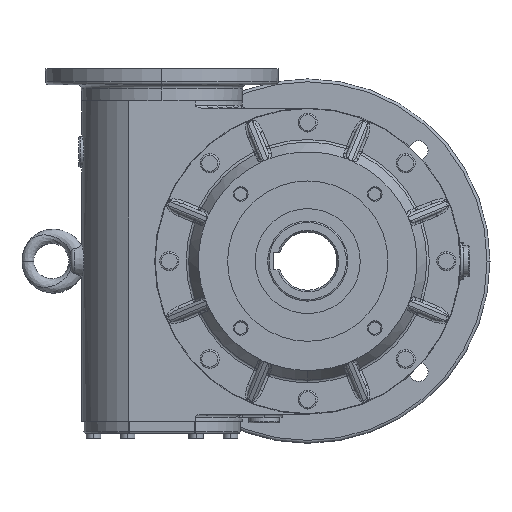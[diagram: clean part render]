
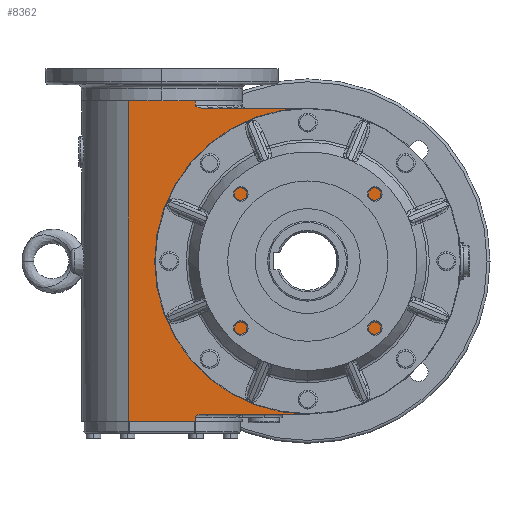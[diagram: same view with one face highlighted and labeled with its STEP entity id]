
A CAD part, left-side view. The second image highlights one B-rep face of the part: STEP entity #8362.
In plain terms, the highlighted planar face has unit normal (-1, 0, 0).
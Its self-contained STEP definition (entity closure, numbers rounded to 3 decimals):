
#7908 = DIRECTION ( 'NONE',  ( 0., -1., 0. ) ) ;
#7909 = VECTOR ( 'NONE', #7908, 1000. ) ;
#7910 = CARTESIAN_POINT ( 'NONE',  ( -50., 122.913, 110. ) ) ;
#7911 = LINE ( 'NONE', #7910, #7909 ) ;
#7912 = CARTESIAN_POINT ( 'NONE',  ( -50., 122.913, 110. ) ) ;
#7920 = CARTESIAN_POINT ( 'NONE',  ( -50., 77.087, 110. ) ) ;
#8283 = EDGE_CURVE ( 'NONE', #8284, #8285, #14823, .T. ) ;
#8284 = VERTEX_POINT ( 'NONE', #14818 ) ;
#8285 = VERTEX_POINT ( 'NONE', #14817 ) ;
#8286 = ORIENTED_EDGE ( 'NONE', *, *, #8287, .F. ) ;
#8287 = EDGE_CURVE ( 'NONE', #8288, #8284, #14816, .T. ) ;
#8288 = VERTEX_POINT ( 'NONE', #14812 ) ;
#8329 = ORIENTED_EDGE ( 'NONE', *, *, #8330, .T. ) ;
#8330 = EDGE_CURVE ( 'NONE', #8355, #8331, #14924, .T. ) ;
#8331 = VERTEX_POINT ( 'NONE', #14926 ) ;
#8332 = ORIENTED_EDGE ( 'NONE', *, *, #8333, .F. ) ;
#8333 = EDGE_CURVE ( 'NONE', #8285, #8331, #14925, .T. ) ;
#8334 = EDGE_LOOP ( 'NONE', ( #8335, #8337 ) ) ;
#8335 = ORIENTED_EDGE ( 'NONE', *, *, #8336, .F. ) ;
#8336 = EDGE_CURVE ( 'NONE', #9313, #12101, #14922, .T. ) ;
#8337 = ORIENTED_EDGE ( 'NONE', *, *, #12280, .F. ) ;
#8341 = ORIENTED_EDGE ( 'NONE', *, *, #8342, .T. ) ;
#8342 = EDGE_CURVE ( 'NONE', #8288, #8343, #14956, .T. ) ;
#8343 = VERTEX_POINT ( 'NONE', #14958 ) ;
#8344 = ORIENTED_EDGE ( 'NONE', *, *, #8345, .F. ) ;
#8345 = EDGE_CURVE ( 'NONE', #14631, #8343, #14957, .T. ) ;
#8346 = ORIENTED_EDGE ( 'NONE', *, *, #14638, .F. ) ;
#8347 = ORIENTED_EDGE ( 'NONE', *, *, #8348, .T. ) ;
#8348 = EDGE_CURVE ( 'NONE', #14636, #8349, #14938, .T. ) ;
#8349 = VERTEX_POINT ( 'NONE', #14934 ) ;
#8350 = ORIENTED_EDGE ( 'NONE', *, *, #8351, .T. ) ;
#8351 = EDGE_CURVE ( 'NONE', #8349, #8352, #14997, .T. ) ;
#8352 = VERTEX_POINT ( 'NONE', #14993 ) ;
#8353 = ORIENTED_EDGE ( 'NONE', *, *, #8354, .F. ) ;
#8354 = EDGE_CURVE ( 'NONE', #8355, #8352, #14992, .T. ) ;
#8355 = VERTEX_POINT ( 'NONE', #14988 ) ;
#8362 = ADVANCED_FACE ( 'NONE', ( #14977, #14976 ), #14975, .F. ) ;
#8363 = EDGE_LOOP ( 'NONE', ( #8364, #8286, #8341, #8344, #8346, #8347, #8350, #8353, #8329, #8332 ) ) ;
#8364 = ORIENTED_EDGE ( 'NONE', *, *, #8283, .F. ) ;
#9313 = VERTEX_POINT ( 'NONE', #17384 ) ;
#12101 = VERTEX_POINT ( 'NONE', #83656 ) ;
#12280 = EDGE_CURVE ( 'NONE', #12101, #9313, #83932, .T. ) ;
#14631 = VERTEX_POINT ( 'NONE', #7920 ) ;
#14636 = VERTEX_POINT ( 'NONE', #7912 ) ;
#14638 = EDGE_CURVE ( 'NONE', #14636, #14631, #7911, .T. ) ;
#14643 = DIRECTION ( 'NONE',  ( 0., 0., -1. ) ) ;
#14812 = CARTESIAN_POINT ( 'NONE',  ( -50., 72.632, 105. ) ) ;
#14813 = DIRECTION ( 'NONE',  ( 0., -1., 0. ) ) ;
#14814 = VECTOR ( 'NONE', #14813, 1000. ) ;
#14815 = CARTESIAN_POINT ( 'NONE',  ( -50., 100., 105. ) ) ;
#14816 = LINE ( 'NONE', #14815, #14814 ) ;
#14817 = CARTESIAN_POINT ( 'NONE',  ( -50., 0., -105. ) ) ;
#14818 = CARTESIAN_POINT ( 'NONE',  ( -50., 0., 105. ) ) ;
#14819 = DIRECTION ( 'NONE',  ( 0., 0., -1. ) ) ;
#14820 = DIRECTION ( 'NONE',  ( 1., 0., 0. ) ) ;
#14821 = CARTESIAN_POINT ( 'NONE',  ( -50., 0., 0. ) ) ;
#14822 = AXIS2_PLACEMENT_3D ( 'NONE', #14821, #14820, #14819 ) ;
#14823 = CIRCLE ( 'NONE', #14822, 105. ) ;
#14900 = DIRECTION ( 'NONE',  ( 0., 1., 0. ) ) ;
#14901 = VECTOR ( 'NONE', #14900, 1000. ) ;
#14902 = CARTESIAN_POINT ( 'NONE',  ( -50., 100., -105. ) ) ;
#14903 = CARTESIAN_POINT ( 'NONE',  ( -50., 0., 0. ) ) ;
#14904 = CARTESIAN_POINT ( 'NONE',  ( -50., 72.632, -105. ) ) ;
#14905 = CARTESIAN_POINT ( 'NONE',  ( -50., 73.07, -105. ) ) ;
#14906 = CARTESIAN_POINT ( 'NONE',  ( -50., 73.502, -105.032 ) ) ;
#14907 = CARTESIAN_POINT ( 'NONE',  ( -50., 74.358, -105.159 ) ) ;
#14908 = CARTESIAN_POINT ( 'NONE',  ( -50., 74.783, -105.254 ) ) ;
#14909 = CARTESIAN_POINT ( 'NONE',  ( -50., 75.407, -105.459 ) ) ;
#14910 = CARTESIAN_POINT ( 'NONE',  ( -50., 75.611, -105.537 ) ) ;
#14911 = CARTESIAN_POINT ( 'NONE',  ( -50., 76.006, -105.719 ) ) ;
#14912 = CARTESIAN_POINT ( 'NONE',  ( -50., 76.198, -105.823 ) ) ;
#14913 = CARTESIAN_POINT ( 'NONE',  ( -50., 76.56, -106.073 ) ) ;
#14914 = CARTESIAN_POINT ( 'NONE',  ( -50., 76.727, -106.216 ) ) ;
#14915 = CARTESIAN_POINT ( 'NONE',  ( -50., 76.928, -106.48 ) ) ;
#14916 = CARTESIAN_POINT ( 'NONE',  ( -50., 76.984, -106.574 ) ) ;
#14917 = CARTESIAN_POINT ( 'NONE',  ( -50., 77.065, -106.781 ) ) ;
#14918 = CARTESIAN_POINT ( 'NONE',  ( -50., 77.087, -106.889 ) ) ;
#14919 = CARTESIAN_POINT ( 'NONE',  ( -50., 77.087, -107. ) ) ;
#14920 = DIRECTION ( 'NONE',  ( -1., 0., 0. ) ) ;
#14921 = AXIS2_PLACEMENT_3D ( 'NONE', #14903, #14920, #14643 ) ;
#14922 = CIRCLE ( 'NONE', #14921, 36. ) ;
#14924 = B_SPLINE_CURVE_WITH_KNOTS ( 'NONE', 3,
 ( #14919, #14918, #14917, #14916, #14915, #14914, #14913, #14912, #14911, #14910, #14909, #14908, #14907, #14906, #14905, #14904 ),
 .UNSPECIFIED., .F., .F.,
 ( 4, 2, 2, 2, 2, 2, 2, 4 ),
 ( 0., 0., 0.001, 0.001, 0.002, 0.003, 0.004, 0.005 ),
 .UNSPECIFIED. ) ;
#14925 = LINE ( 'NONE', #14902, #14901 ) ;
#14926 = CARTESIAN_POINT ( 'NONE',  ( -50., 72.632, -105. ) ) ;
#14934 = CARTESIAN_POINT ( 'NONE',  ( -50., 122.913, -110. ) ) ;
#14935 = DIRECTION ( 'NONE',  ( 0., 0., -1. ) ) ;
#14936 = VECTOR ( 'NONE', #14935, 1000. ) ;
#14937 = CARTESIAN_POINT ( 'NONE',  ( -50., 122.913, 110. ) ) ;
#14938 = LINE ( 'NONE', #14937, #14936 ) ;
#14939 = DIRECTION ( 'NONE',  ( 0., 0., -1. ) ) ;
#14940 = VECTOR ( 'NONE', #14939, 1000. ) ;
#14941 = CARTESIAN_POINT ( 'NONE',  ( -50., 77.087, 107. ) ) ;
#14942 = CARTESIAN_POINT ( 'NONE',  ( -50., 77.087, 106.776 ) ) ;
#14943 = CARTESIAN_POINT ( 'NONE',  ( -50., 76.994, 106.567 ) ) ;
#14944 = CARTESIAN_POINT ( 'NONE',  ( -50., 76.725, 106.214 ) ) ;
#14945 = CARTESIAN_POINT ( 'NONE',  ( -50., 76.558, 106.072 ) ) ;
#14946 = CARTESIAN_POINT ( 'NONE',  ( -50., 76.199, 105.824 ) ) ;
#14947 = CARTESIAN_POINT ( 'NONE',  ( -50., 76.005, 105.718 ) ) ;
#14948 = CARTESIAN_POINT ( 'NONE',  ( -50., 75.606, 105.535 ) ) ;
#14949 = CARTESIAN_POINT ( 'NONE',  ( -50., 75.4, 105.456 ) ) ;
#14950 = CARTESIAN_POINT ( 'NONE',  ( -50., 74.778, 105.253 ) ) ;
#14951 = CARTESIAN_POINT ( 'NONE',  ( -50., 74.356, 105.159 ) ) ;
#14952 = CARTESIAN_POINT ( 'NONE',  ( -50., 73.502, 105.032 ) ) ;
#14953 = CARTESIAN_POINT ( 'NONE',  ( -50., 73.07, 105. ) ) ;
#14954 = CARTESIAN_POINT ( 'NONE',  ( -50., 72.632, 105. ) ) ;
#14955 = CARTESIAN_POINT ( 'NONE',  ( -50., 77.087, 110. ) ) ;
#14956 = B_SPLINE_CURVE_WITH_KNOTS ( 'NONE', 3,
 ( #14954, #14953, #14952, #14951, #14950, #14949, #14948, #14947, #14946, #14945, #14944, #14943, #14942, #14941 ),
 .UNSPECIFIED., .F., .F.,
 ( 4, 2, 2, 2, 2, 2, 4 ),
 ( 0., 0.001, 0.003, 0.003, 0.004, 0.005, 0.005 ),
 .UNSPECIFIED. ) ;
#14957 = LINE ( 'NONE', #14955, #14940 ) ;
#14958 = CARTESIAN_POINT ( 'NONE',  ( -50., 77.087, 107. ) ) ;
#14971 = DIRECTION ( 'NONE',  ( 0., 0., -1. ) ) ;
#14972 = DIRECTION ( 'NONE',  ( 1., 0., 0. ) ) ;
#14973 = CARTESIAN_POINT ( 'NONE',  ( -50., 0., 0. ) ) ;
#14974 = AXIS2_PLACEMENT_3D ( 'NONE', #14973, #14972, #14971 ) ;
#14975 = PLANE ( 'NONE',  #14974 ) ;
#14976 = FACE_BOUND ( 'NONE', #8334, .T. ) ;
#14977 = FACE_OUTER_BOUND ( 'NONE', #8363, .T. ) ;
#14988 = CARTESIAN_POINT ( 'NONE',  ( -50., 77.087, -107. ) ) ;
#14989 = DIRECTION ( 'NONE',  ( 0., 0., -1. ) ) ;
#14990 = VECTOR ( 'NONE', #14989, 1000. ) ;
#14991 = CARTESIAN_POINT ( 'NONE',  ( -50., 77.087, 110. ) ) ;
#14992 = LINE ( 'NONE', #14991, #14990 ) ;
#14993 = CARTESIAN_POINT ( 'NONE',  ( -50., 77.087, -110. ) ) ;
#14994 = DIRECTION ( 'NONE',  ( 0., -1., 0. ) ) ;
#14995 = VECTOR ( 'NONE', #14994, 1000. ) ;
#14996 = CARTESIAN_POINT ( 'NONE',  ( -50., 122.913, -110. ) ) ;
#14997 = LINE ( 'NONE', #14996, #14995 ) ;
#17384 = CARTESIAN_POINT ( 'NONE',  ( -50., 0., -36. ) ) ;
#83656 = CARTESIAN_POINT ( 'NONE',  ( -50., 0., 36. ) ) ;
#83924 = DIRECTION ( 'NONE',  ( 0., 0., -1. ) ) ;
#83925 = DIRECTION ( 'NONE',  ( -1., 0., 0. ) ) ;
#83926 = CARTESIAN_POINT ( 'NONE',  ( -50., 0., 0. ) ) ;
#83927 = AXIS2_PLACEMENT_3D ( 'NONE', #83926, #83925, #83924 ) ;
#83932 = CIRCLE ( 'NONE', #83927, 36. ) ;
